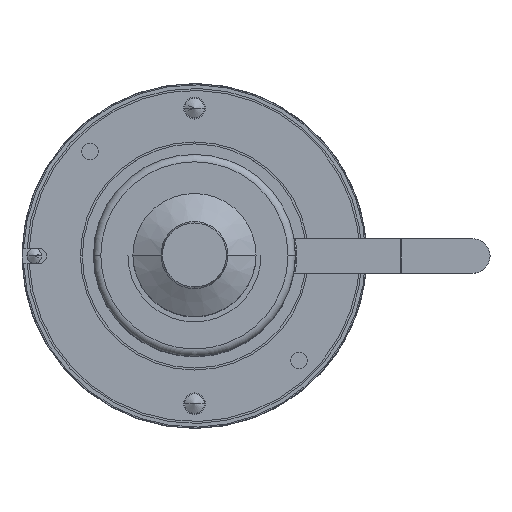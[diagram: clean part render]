
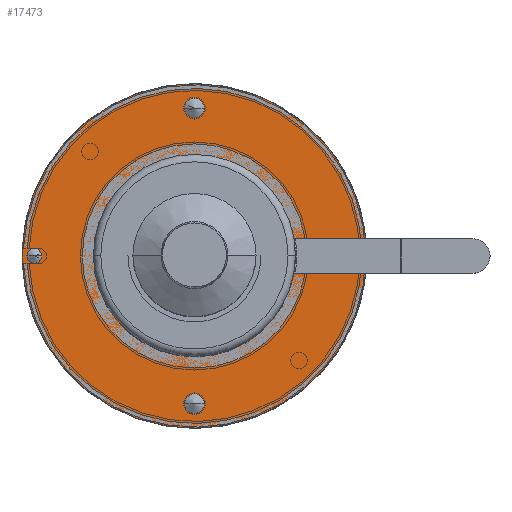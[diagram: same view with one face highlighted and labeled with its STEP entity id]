
A CAD part, top view. The second image highlights one B-rep face of the part: STEP entity #17473.
In plain terms, the highlighted planar face has unit normal (0, 0, 1).
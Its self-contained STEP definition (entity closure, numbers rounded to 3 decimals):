
#2200 = FACE_BOUND ( 'NONE', #28287, .T. ) ;
#2202 = FACE_OUTER_BOUND ( 'NONE', #28288, .T. ) ;
#2203 = FACE_BOUND ( 'NONE', #28455, .T. ) ;
#2204 = FACE_BOUND ( 'NONE', #22263, .T. ) ;
#2813 = AXIS2_PLACEMENT_3D ( 'NONE', #11515, #11517, #11518 ) ;
#2819 = AXIS2_PLACEMENT_3D ( 'NONE', #11552, #11554, #11555 ) ;
#2822 = AXIS2_PLACEMENT_3D ( 'NONE', #11573, #11574, #11575 ) ;
#2869 = AXIS2_PLACEMENT_3D ( 'NONE', #11942, #11944, #11946 ) ;
#2877 = AXIS2_PLACEMENT_3D ( 'NONE', #11985, #11986, #11987 ) ;
#2878 = AXIS2_PLACEMENT_3D ( 'NONE', #11992, #11993, #11994 ) ;
#2883 = AXIS2_PLACEMENT_3D ( 'NONE', #12011, #12012, #12013 ) ;
#2885 = AXIS2_PLACEMENT_3D ( 'NONE', #12019, #12020, #12021 ) ;
#2951 = AXIS2_PLACEMENT_3D ( 'NONE', #26352, #26353, #26354 ) ;
#3047 = EDGE_CURVE ( 'NONE', #27777, #27040, #21199, .T. ) ;
#3231 = EDGE_CURVE ( 'NONE', #27029, #27067, #26604, .T. ) ;
#4820 = AXIS2_PLACEMENT_3D ( 'NONE', #23836, #23837, #23838 ) ;
#4905 = LINE ( 'NONE', #12086, #4906 ) ;
#4906 = VECTOR ( 'NONE', #12087, 1000. ) ;
#5031 = CIRCLE ( 'NONE', #2951, 70. ) ;
#7657 = CIRCLE ( 'NONE', #2813, 41. ) ;
#7672 = CIRCLE ( 'NONE', #2819, 4. ) ;
#7679 = LINE ( 'NONE', #11569, #7681 ) ;
#7681 = VECTOR ( 'NONE', #11571, 1000. ) ;
#7682 = CIRCLE ( 'NONE', #2822, 41. ) ;
#7767 = CIRCLE ( 'NONE', #2869, 70. ) ;
#7780 = CIRCLE ( 'NONE', #2877, 3. ) ;
#7784 = CIRCLE ( 'NONE', #2878, 4. ) ;
#7794 = CIRCLE ( 'NONE', #2883, 4. ) ;
#7798 = CIRCLE ( 'NONE', #2885, 4. ) ;
#8535 = CARTESIAN_POINT ( 'NONE',  ( 40.398, -7., 32. ) ) ;
#8637 = CARTESIAN_POINT ( 'NONE',  ( -4., 60., 32. ) ) ;
#8671 = CARTESIAN_POINT ( 'NONE',  ( -62., 0., 32. ) ) ;
#8675 = CARTESIAN_POINT ( 'NONE',  ( 40.398, 7., 32. ) ) ;
#8682 = CARTESIAN_POINT ( 'NONE',  ( 0., -70., 32. ) ) ;
#8709 = CARTESIAN_POINT ( 'NONE',  ( -68., 0., 32. ) ) ;
#8747 = CARTESIAN_POINT ( 'NONE',  ( 4., 60., 32. ) ) ;
#8782 = CARTESIAN_POINT ( 'NONE',  ( -41., 0., 32. ) ) ;
#11515 = CARTESIAN_POINT ( 'NONE',  ( 0., 0., 32. ) ) ;
#11517 = DIRECTION ( 'NONE',  ( 0., 0., -1. ) ) ;
#11518 = DIRECTION ( 'NONE',  ( -1., 0., 0. ) ) ;
#11552 = CARTESIAN_POINT ( 'NONE',  ( 0., 60., 32. ) ) ;
#11554 = DIRECTION ( 'NONE',  ( 0., 0., -1. ) ) ;
#11555 = DIRECTION ( 'NONE',  ( -1., 0., 0. ) ) ;
#11569 = CARTESIAN_POINT ( 'NONE',  ( 0., -7., 32. ) ) ;
#11571 = DIRECTION ( 'NONE',  ( 1., 0., 0. ) ) ;
#11573 = CARTESIAN_POINT ( 'NONE',  ( 0., 0., 32. ) ) ;
#11574 = DIRECTION ( 'NONE',  ( 0., 0., -1. ) ) ;
#11575 = DIRECTION ( 'NONE',  ( -1., 0., 0. ) ) ;
#11942 = CARTESIAN_POINT ( 'NONE',  ( 0., 0., 32. ) ) ;
#11944 = DIRECTION ( 'NONE',  ( 0., 0., 1. ) ) ;
#11946 = DIRECTION ( 'NONE',  ( 0., 1., 0. ) ) ;
#11985 = CARTESIAN_POINT ( 'NONE',  ( -65., 0., 32. ) ) ;
#11986 = DIRECTION ( 'NONE',  ( 0., 0., 1. ) ) ;
#11987 = DIRECTION ( 'NONE',  ( 1., 0., 0. ) ) ;
#11992 = CARTESIAN_POINT ( 'NONE',  ( 0., 60., 32. ) ) ;
#11993 = DIRECTION ( 'NONE',  ( 0., 0., -1. ) ) ;
#11994 = DIRECTION ( 'NONE',  ( -1., 0., 0. ) ) ;
#12011 = CARTESIAN_POINT ( 'NONE',  ( 0., -60., 32. ) ) ;
#12012 = DIRECTION ( 'NONE',  ( 0., 0., 1. ) ) ;
#12013 = DIRECTION ( 'NONE',  ( -1., 0., 0. ) ) ;
#12019 = CARTESIAN_POINT ( 'NONE',  ( 0., -60., 32. ) ) ;
#12020 = DIRECTION ( 'NONE',  ( 0., 0., 1. ) ) ;
#12021 = DIRECTION ( 'NONE',  ( -1., 0., 0. ) ) ;
#12086 = CARTESIAN_POINT ( 'NONE',  ( 0., 7., 32. ) ) ;
#12087 = DIRECTION ( 'NONE',  ( -1., 0., 0. ) ) ;
#14817 = ORIENTED_EDGE ( 'NONE', *, *, #3047, .T. ) ;
#14866 = ORIENTED_EDGE ( 'NONE', *, *, #23006, .T. ) ;
#14996 = ORIENTED_EDGE ( 'NONE', *, *, #22911, .F. ) ;
#15051 = ORIENTED_EDGE ( 'NONE', *, *, #22878, .T. ) ;
#15084 = ORIENTED_EDGE ( 'NONE', *, *, #23042, .F. ) ;
#15251 = ORIENTED_EDGE ( 'NONE', *, *, #3231, .F. ) ;
#15253 = ORIENTED_EDGE ( 'NONE', *, *, #23016, .F. ) ;
#15377 = ORIENTED_EDGE ( 'NONE', *, *, #22902, .T. ) ;
#15398 = ORIENTED_EDGE ( 'NONE', *, *, #23131, .T. ) ;
#15421 = ORIENTED_EDGE ( 'NONE', *, *, #22992, .T. ) ;
#15425 = ORIENTED_EDGE ( 'NONE', *, *, #23013, .F. ) ;
#15450 = ORIENTED_EDGE ( 'NONE', *, *, #22912, .T. ) ;
#15467 = ORIENTED_EDGE ( 'NONE', *, *, #23003, .F. ) ;
#17473 = ADVANCED_FACE ( 'NONE', ( #2200, #2202, #2203, #2204 ), #23835, .T. ) ;
#21199 = CIRCLE ( 'NONE', #25624, 70. ) ;
#22263 = EDGE_LOOP ( 'NONE', ( #15425, #15253 ) ) ;
#22602 = CARTESIAN_POINT ( 'NONE',  ( 69.649, 7., 32. ) ) ;
#22734 = CARTESIAN_POINT ( 'NONE',  ( 4., -60., 32. ) ) ;
#22819 = CARTESIAN_POINT ( 'NONE',  ( -4., -60., 32. ) ) ;
#22843 = CARTESIAN_POINT ( 'NONE',  ( 69.649, -7., 32. ) ) ;
#22855 = CARTESIAN_POINT ( 'NONE',  ( 0., 70., 32. ) ) ;
#22878 = EDGE_CURVE ( 'NONE', #27140, #27033, #7657, .T. ) ;
#22902 = EDGE_CURVE ( 'NONE', #26995, #27105, #7672, .T. ) ;
#22911 = EDGE_CURVE ( 'NONE', #26889, #27755, #7679, .T. ) ;
#22912 = EDGE_CURVE ( 'NONE', #26889, #27140, #7682, .T. ) ;
#22992 = EDGE_CURVE ( 'NONE', #27040, #27755, #7767, .T. ) ;
#23003 = EDGE_CURVE ( 'NONE', #27067, #27029, #7780, .T. ) ;
#23006 = EDGE_CURVE ( 'NONE', #27105, #26995, #7784, .T. ) ;
#23013 = EDGE_CURVE ( 'NONE', #27682, #27529, #7794, .T. ) ;
#23016 = EDGE_CURVE ( 'NONE', #27529, #27682, #7798, .T. ) ;
#23042 = EDGE_CURVE ( 'NONE', #27237, #27033, #4905, .T. ) ;
#23131 = EDGE_CURVE ( 'NONE', #27237, #27777, #5031, .T. ) ;
#23835 = PLANE ( 'NONE',  #4820 ) ;
#23836 = CARTESIAN_POINT ( 'NONE',  ( 0., 25., 32. ) ) ;
#23837 = DIRECTION ( 'NONE',  ( 0., 0., 1. ) ) ;
#23838 = DIRECTION ( 'NONE',  ( 0., 1., 0. ) ) ;
#25057 = DIRECTION ( 'NONE',  ( 0., 0., 1. ) ) ;
#25064 = CARTESIAN_POINT ( 'NONE',  ( -65., 0., 32. ) ) ;
#25408 = DIRECTION ( 'NONE',  ( 1., 0., 0. ) ) ;
#25624 = AXIS2_PLACEMENT_3D ( 'NONE', #27208, #27203, #27243 ) ;
#25790 = AXIS2_PLACEMENT_3D ( 'NONE', #25064, #25057, #25408 ) ;
#26352 = CARTESIAN_POINT ( 'NONE',  ( 0., 0., 32. ) ) ;
#26353 = DIRECTION ( 'NONE',  ( 0., 0., 1. ) ) ;
#26354 = DIRECTION ( 'NONE',  ( 0., 1., 0. ) ) ;
#26604 = CIRCLE ( 'NONE', #25790, 3. ) ;
#26889 = VERTEX_POINT ( 'NONE', #8535 ) ;
#26995 = VERTEX_POINT ( 'NONE', #8637 ) ;
#27029 = VERTEX_POINT ( 'NONE', #8671 ) ;
#27033 = VERTEX_POINT ( 'NONE', #8675 ) ;
#27040 = VERTEX_POINT ( 'NONE', #8682 ) ;
#27067 = VERTEX_POINT ( 'NONE', #8709 ) ;
#27105 = VERTEX_POINT ( 'NONE', #8747 ) ;
#27140 = VERTEX_POINT ( 'NONE', #8782 ) ;
#27203 = DIRECTION ( 'NONE',  ( 0., 0., 1. ) ) ;
#27208 = CARTESIAN_POINT ( 'NONE',  ( 0., 0., 32. ) ) ;
#27237 = VERTEX_POINT ( 'NONE', #22602 ) ;
#27243 = DIRECTION ( 'NONE',  ( 0., 1., 0. ) ) ;
#27529 = VERTEX_POINT ( 'NONE', #22734 ) ;
#27682 = VERTEX_POINT ( 'NONE', #22819 ) ;
#27755 = VERTEX_POINT ( 'NONE', #22843 ) ;
#27777 = VERTEX_POINT ( 'NONE', #22855 ) ;
#28287 = EDGE_LOOP ( 'NONE', ( #15377, #14866 ) ) ;
#28288 = EDGE_LOOP ( 'NONE', ( #15084, #15398, #14817, #15421, #14996, #15450, #15051 ) ) ;
#28455 = EDGE_LOOP ( 'NONE', ( #15251, #15467 ) ) ;
